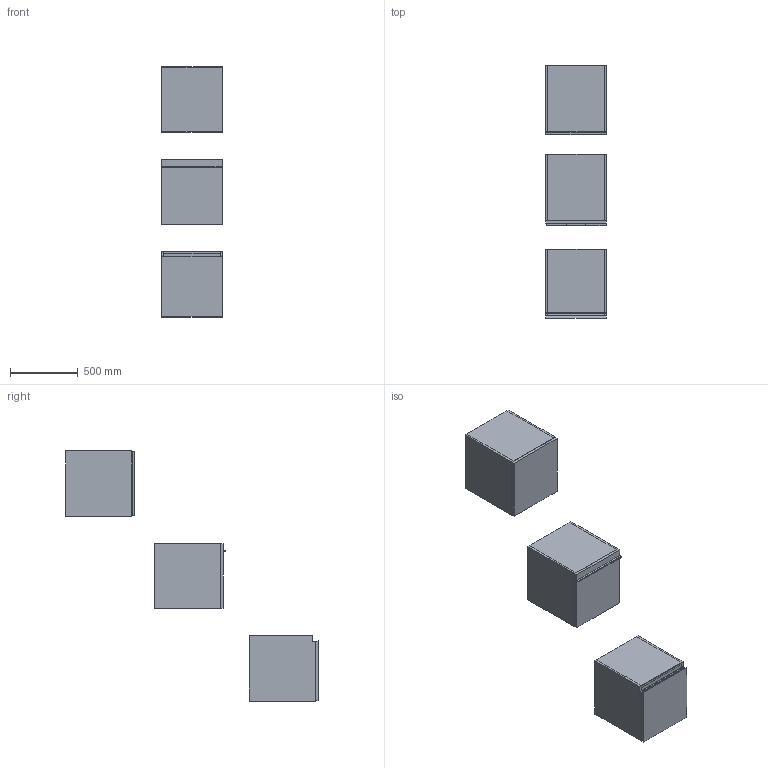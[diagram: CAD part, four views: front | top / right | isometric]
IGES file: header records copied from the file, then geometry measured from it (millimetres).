
Start section: Data from Parasolid IGES Translator 19.0.9, Copyright(c) 2006 Siemens PL M Software. All Rights Reserved.
Global section: file name: noorth-SI-H 48 D 51 W 45_8564.igs; native system: By Siemens PLM Incorporated; preprocessor: XPlus GENERIC/IGES 19.0.9; author: Noname; organization: Noname; date: 20200601.113308; units: metre
Bounding box: 450 x 1857.1 x 1840.01 mm (x, y, z)
Volume: 55452995.5 mm3; surface area: 8158614.4 mm2
Topology: 20 solids, 20 shells, 178 faces, 382 edges, 234 vertices
Faces by surface type: plane 134, extrusion 16, bspline 16, cylinder 12
